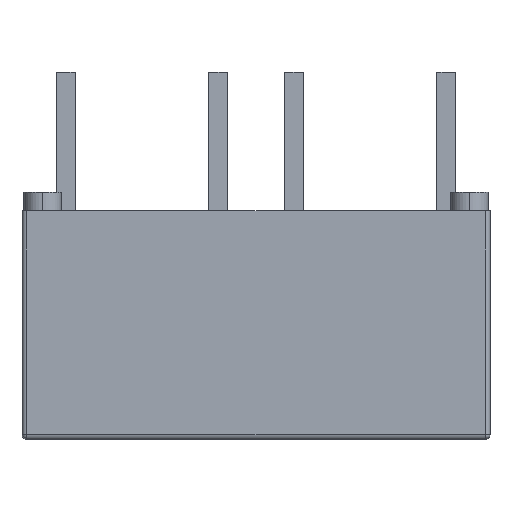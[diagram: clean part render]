
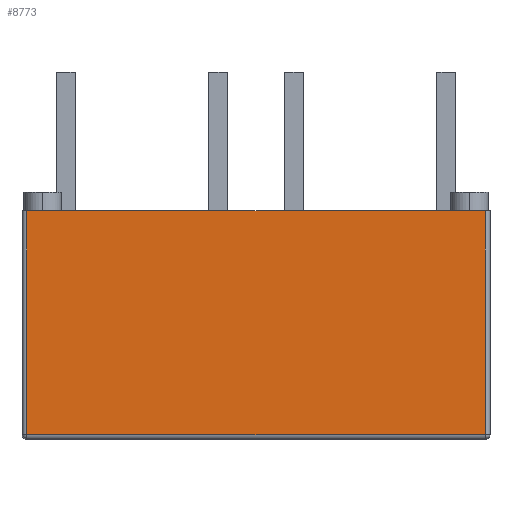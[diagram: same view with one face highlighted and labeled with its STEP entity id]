
A CAD part, top view. The second image highlights one B-rep face of the part: STEP entity #8773.
In plain terms, the highlighted planar face has unit normal (0, 0, 1).
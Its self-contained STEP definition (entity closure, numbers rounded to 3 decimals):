
#79 = CARTESIAN_POINT ( 'NONE',  ( -6.25, -2.923, 1.85 ) ) ;
#93 = DIRECTION ( 'NONE',  ( -1., 0., 0. ) ) ;
#634 = AXIS2_PLACEMENT_3D ( 'NONE', #10246, #10855, #93 ) ;
#793 = VECTOR ( 'NONE', #11690, 1000. ) ;
#869 = CARTESIAN_POINT ( 'NONE',  ( -6.123, -2.923, 1.85 ) ) ;
#1307 = EDGE_CURVE ( 'NONE', #10725, #2930, #2017, .T. ) ;
#1987 = VECTOR ( 'NONE', #7927, 1000. ) ;
#2017 = LINE ( 'NONE', #79, #1987 ) ;
#2249 = ORIENTED_EDGE ( 'NONE', *, *, #1307, .T. ) ;
#2399 = ORIENTED_EDGE ( 'NONE', *, *, #9014, .T. ) ;
#2461 = FACE_OUTER_BOUND ( 'NONE', #10733, .T. ) ;
#2589 = EDGE_CURVE ( 'NONE', #4200, #10725, #3708, .T. ) ;
#2930 = VERTEX_POINT ( 'NONE', #11840 ) ;
#3303 = VECTOR ( 'NONE', #11945, 1000. ) ;
#3708 = LINE ( 'NONE', #7686, #793 ) ;
#3846 = LINE ( 'NONE', #6912, #3303 ) ;
#4200 = VERTEX_POINT ( 'NONE', #4949 ) ;
#4949 = CARTESIAN_POINT ( 'NONE',  ( -6.123, 3.05, 1.85 ) ) ;
#5614 = CARTESIAN_POINT ( 'NONE',  ( 6.123, 3.05, 1.85 ) ) ;
#5988 = LINE ( 'NONE', #8697, #8856 ) ;
#6377 = PLANE ( 'NONE',  #634 ) ;
#6912 = CARTESIAN_POINT ( 'NONE',  ( -6.25, 3.05, 1.85 ) ) ;
#7152 = ORIENTED_EDGE ( 'NONE', *, *, #2589, .T. ) ;
#7385 = EDGE_CURVE ( 'NONE', #4200, #11070, #3846, .T. ) ;
#7686 = CARTESIAN_POINT ( 'NONE',  ( -6.123, 3.05, 1.85 ) ) ;
#7927 = DIRECTION ( 'NONE',  ( 1., 0., 0. ) ) ;
#8697 = CARTESIAN_POINT ( 'NONE',  ( 6.123, 3.05, 1.85 ) ) ;
#8773 = ADVANCED_FACE ( 'NONE', ( #2461 ), #6377, .F. ) ;
#8856 = VECTOR ( 'NONE', #9916, 1000. ) ;
#9014 = EDGE_CURVE ( 'NONE', #2930, #11070, #5988, .T. ) ;
#9687 = ORIENTED_EDGE ( 'NONE', *, *, #7385, .F. ) ;
#9916 = DIRECTION ( 'NONE',  ( 0., 1., 0. ) ) ;
#10246 = CARTESIAN_POINT ( 'NONE',  ( -6.25, 3.05, 1.85 ) ) ;
#10725 = VERTEX_POINT ( 'NONE', #869 ) ;
#10733 = EDGE_LOOP ( 'NONE', ( #9687, #7152, #2249, #2399 ) ) ;
#10855 = DIRECTION ( 'NONE',  ( 0., 0., -1. ) ) ;
#11070 = VERTEX_POINT ( 'NONE', #5614 ) ;
#11690 = DIRECTION ( 'NONE',  ( 0., -1., 0. ) ) ;
#11840 = CARTESIAN_POINT ( 'NONE',  ( 6.123, -2.923, 1.85 ) ) ;
#11945 = DIRECTION ( 'NONE',  ( 1., 0., 0. ) ) ;
